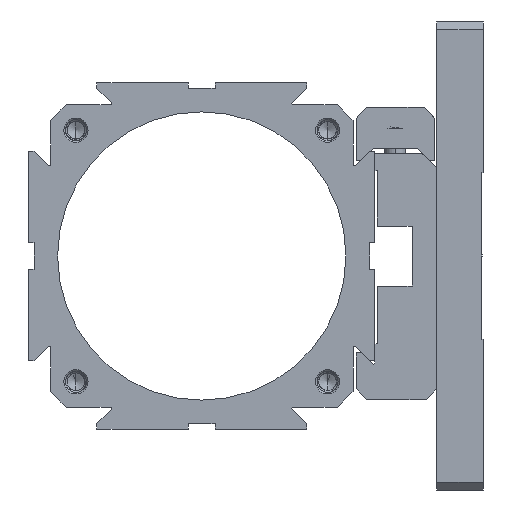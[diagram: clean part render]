
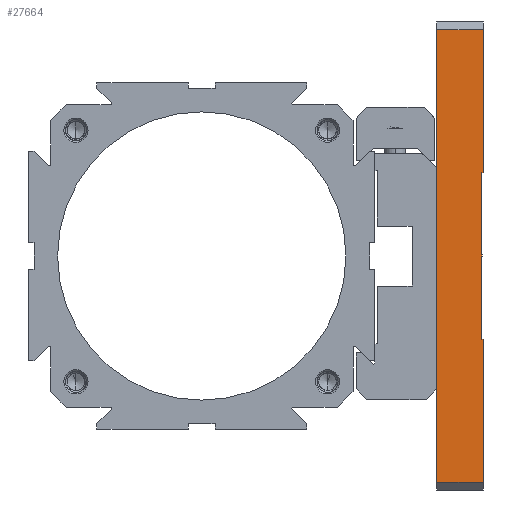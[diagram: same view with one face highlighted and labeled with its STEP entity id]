
A CAD part, left-side view. The second image highlights one B-rep face of the part: STEP entity #27664.
In plain terms, the highlighted planar face has unit normal (-1, 0, 0).
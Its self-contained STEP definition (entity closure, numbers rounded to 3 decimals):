
#23338=DIRECTION('',(0.,0.,1.));
#23339=VECTOR('',#23338,27.266);
#23340=CARTESIAN_POINT('',(-38.1,0.,15.875));
#23341=LINE('',#23340,#23339);
#23798=DIRECTION('',(0.,1.,0.));
#23799=VECTOR('',#23798,0.254);
#23800=CARTESIAN_POINT('',(-38.1,0.,15.875));
#23801=LINE('',#23800,#23799);
#23802=DIRECTION('',(0.,1.,0.));
#23803=VECTOR('',#23802,8.89);
#23804=CARTESIAN_POINT('',(-38.1,0.,43.141));
#23805=LINE('',#23804,#23803);
#23806=DIRECTION('',(0.,0.,1.));
#23807=VECTOR('',#23806,31.75);
#23808=CARTESIAN_POINT('',(-38.1,0.254,-15.875));
#23809=LINE('',#23808,#23807);
#23810=DIRECTION('',(0.,1.,0.));
#23811=VECTOR('',#23810,0.254);
#23812=CARTESIAN_POINT('',(-38.1,0.,-15.875));
#23813=LINE('',#23812,#23811);
#23814=DIRECTION('',(0.,0.,-1.));
#23815=VECTOR('',#23814,27.266);
#23816=CARTESIAN_POINT('',(-38.1,0.,-15.875));
#23817=LINE('',#23816,#23815);
#23818=DIRECTION('',(0.,1.,0.));
#23819=VECTOR('',#23818,8.89);
#23820=CARTESIAN_POINT('',(-38.1,0.,-43.141));
#23821=LINE('',#23820,#23819);
#23822=DIRECTION('',(0.,0.,1.));
#23823=VECTOR('',#23822,86.281);
#23824=CARTESIAN_POINT('',(-38.1,8.89,-43.141));
#23825=LINE('',#23824,#23823);
#25839=CARTESIAN_POINT('',(-38.1,0.254,-15.875));
#25840=VERTEX_POINT('',#25839);
#25841=CARTESIAN_POINT('',(-38.1,0.254,15.875));
#25843=VERTEX_POINT('',#25841);
#25861=CARTESIAN_POINT('',(-38.1,0.,15.875));
#25862=VERTEX_POINT('',#25861);
#25867=CARTESIAN_POINT('',(-38.1,0.,-15.875));
#25868=VERTEX_POINT('',#25867);
#25983=CARTESIAN_POINT('',(-38.1,8.89,43.141));
#25985=VERTEX_POINT('',#25983);
#25989=CARTESIAN_POINT('',(-38.1,0.,43.141));
#25990=VERTEX_POINT('',#25989);
#25992=CARTESIAN_POINT('',(-38.1,8.89,-43.141));
#25994=VERTEX_POINT('',#25992);
#25995=CARTESIAN_POINT('',(-38.1,0.,-43.141));
#25996=VERTEX_POINT('',#25995);
#27646=CARTESIAN_POINT('',(-38.1,8.89,-44.641));
#27647=DIRECTION('',(1.,0.,0.));
#27648=DIRECTION('',(0.,0.,-1.));
#27649=AXIS2_PLACEMENT_3D('',#27646,#27647,#27648);
#27650=PLANE('',#27649);
#27652=ORIENTED_EDGE('',*,*,#27651,.F.);
#27653=ORIENTED_EDGE('',*,*,#27093,.F.);
#27654=ORIENTED_EDGE('',*,*,#27641,.T.);
#27655=ORIENTED_EDGE('',*,*,#26381,.F.);
#27657=ORIENTED_EDGE('',*,*,#27656,.F.);
#27658=ORIENTED_EDGE('',*,*,#27154,.T.);
#27660=ORIENTED_EDGE('',*,*,#27659,.T.);
#27661=ORIENTED_EDGE('',*,*,#26553,.T.);
#27662=EDGE_LOOP('',(#27652,#27653,#27654,#27655,#27657,#27658,#27660,#27661));
#27663=FACE_OUTER_BOUND('',#27662,.F.);
#27664=ADVANCED_FACE('',(#27663),#27650,.F.);
#26381=EDGE_CURVE('',#25840,#25843,#23809,.T.);
#26553=EDGE_CURVE('',#25994,#25985,#23825,.T.);
#27093=EDGE_CURVE('',#25862,#25990,#23341,.T.);
#27154=EDGE_CURVE('',#25868,#25996,#23817,.T.);
#27641=EDGE_CURVE('',#25862,#25843,#23801,.T.);
#27651=EDGE_CURVE('',#25990,#25985,#23805,.T.);
#27656=EDGE_CURVE('',#25868,#25840,#23813,.T.);
#27659=EDGE_CURVE('',#25996,#25994,#23821,.T.);
